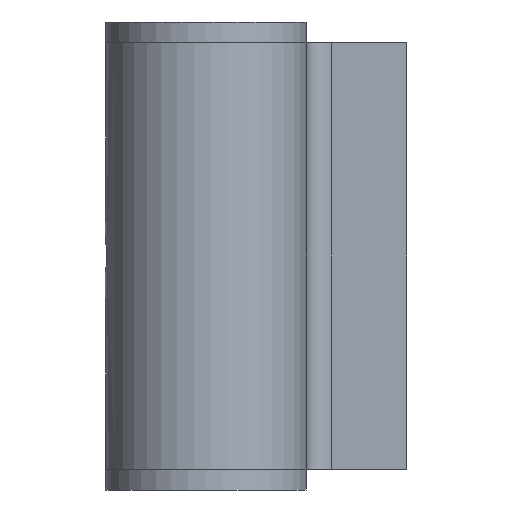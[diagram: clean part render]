
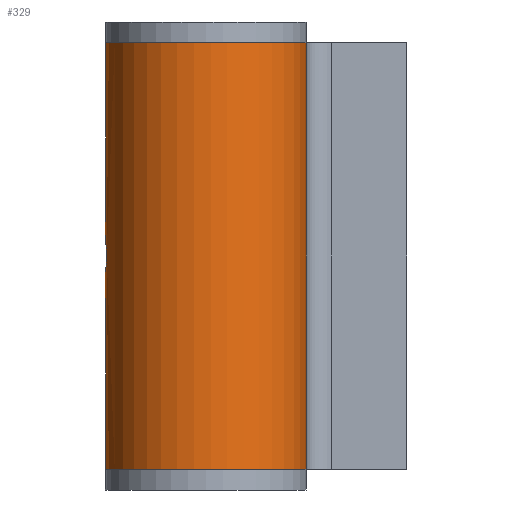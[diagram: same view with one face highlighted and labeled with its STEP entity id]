
A CAD part, left-side view. The second image highlights one B-rep face of the part: STEP entity #329.
In plain terms, the highlighted cylindrical face has radius 8 mm (diameter 16 mm), a partial arc.
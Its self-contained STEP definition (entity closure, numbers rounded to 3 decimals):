
#20 = CARTESIAN_POINT ( 'NONE',  ( -0.163, 8., 1.25 ) ) ;
#24 = CARTESIAN_POINT ( 'NONE',  ( -0.768, 7.964, 1. ) ) ;
#42 = CARTESIAN_POINT ( 'NONE',  ( 0., 0., 17. ) ) ;
#55 = VERTEX_POINT ( 'NONE', #495 ) ;
#56 = CARTESIAN_POINT ( 'NONE',  ( 1.092, 7.925, 0.63 ) ) ;
#59 = EDGE_CURVE ( 'NONE', #666, #660, #224, .T. ) ;
#66 = CARTESIAN_POINT ( 'NONE',  ( 1.242, 7.903, 0.164 ) ) ;
#74 = DIRECTION ( 'NONE',  ( 1., 0., 0. ) ) ;
#76 = CYLINDRICAL_SURFACE ( 'NONE', #592, 8. ) ;
#77 = CARTESIAN_POINT ( 'NONE',  ( -0.328, 7.995, 1.217 ) ) ;
#101 = DIRECTION ( 'NONE',  ( 0., 0., 1. ) ) ;
#117 = CARTESIAN_POINT ( 'NONE',  ( 0.165, 8., -1.25 ) ) ;
#120 = LINE ( 'NONE', #259, #512 ) ;
#132 = CARTESIAN_POINT ( 'NONE',  ( 0., 0., 17. ) ) ;
#137 = FACE_OUTER_BOUND ( 'NONE', #217, .T. ) ;
#148 = CARTESIAN_POINT ( 'NONE',  ( -0.77, 7.964, -0.998 ) ) ;
#150 = CARTESIAN_POINT ( 'NONE',  ( -1.25, 7.902, -0.164 ) ) ;
#154 = DIRECTION ( 'NONE',  ( 0., 0., -1. ) ) ;
#186 = CARTESIAN_POINT ( 'NONE',  ( 0.63, 7.977, 1.092 ) ) ;
#202 = CARTESIAN_POINT ( 'NONE',  ( 0.325, 7.994, 1.21 ) ) ;
#204 = AXIS2_PLACEMENT_3D ( 'NONE', #42, #101, #611 ) ;
#205 = CARTESIAN_POINT ( 'NONE',  ( -0.994, 7.938, 0.763 ) ) ;
#217 = EDGE_LOOP ( 'NONE', ( #445, #355, #293, #692 ) ) ;
#224 = LINE ( 'NONE', #351, #810 ) ;
#225 = EDGE_LOOP ( 'NONE', ( #801 ) ) ;
#259 = CARTESIAN_POINT ( 'NONE',  ( 0., -8., 17. ) ) ;
#260 = CARTESIAN_POINT ( 'NONE',  ( 0.63, 7.977, -1.092 ) ) ;
#266 = CARTESIAN_POINT ( 'NONE',  ( -1.217, 7.907, 0.329 ) ) ;
#271 = CARTESIAN_POINT ( 'NONE',  ( 0.165, 7.999, 1.242 ) ) ;
#293 = ORIENTED_EDGE ( 'NONE', *, *, #470, .F. ) ;
#327 = CARTESIAN_POINT ( 'NONE',  ( -1.092, 7.925, -0.629 ) ) ;
#329 = ADVANCED_FACE ( 'NONE', ( #710, #137 ), #76, .T. ) ;
#332 = CIRCLE ( 'NONE', #793, 8. ) ;
#336 = CARTESIAN_POINT ( 'NONE',  ( 0., -8., 17. ) ) ;
#351 = CARTESIAN_POINT ( 'NONE',  ( 5.465, 5.842, 17. ) ) ;
#355 = ORIENTED_EDGE ( 'NONE', *, *, #803, .F. ) ;
#365 = CARTESIAN_POINT ( 'NONE',  ( 1.092, 7.925, -0.629 ) ) ;
#369 = CARTESIAN_POINT ( 'NONE',  ( 0.403, 7.99, 1.186 ) ) ;
#375 = CARTESIAN_POINT ( 'NONE',  ( 0.769, 7.964, -0.999 ) ) ;
#379 = DIRECTION ( 'NONE',  ( 0., 0., 1. ) ) ;
#380 = DIRECTION ( 'NONE',  ( -1., 0., 0. ) ) ;
#387 = CARTESIAN_POINT ( 'NONE',  ( 5.465, 5.842, -17. ) ) ;
#400 = VERTEX_POINT ( 'NONE', #336 ) ;
#442 = CARTESIAN_POINT ( 'NONE',  ( 0.328, 7.995, -1.217 ) ) ;
#445 = ORIENTED_EDGE ( 'NONE', *, *, #524, .T. ) ;
#455 = CARTESIAN_POINT ( 'NONE',  ( -0.941, 7.945, 0.827 ) ) ;
#458 = CARTESIAN_POINT ( 'NONE',  ( -1.123, 7.921, 0.556 ) ) ;
#470 = EDGE_CURVE ( 'NONE', #666, #400, #694, .T. ) ;
#485 = DIRECTION ( 'NONE',  ( 0., 0., -1. ) ) ;
#492 = CARTESIAN_POINT ( 'NONE',  ( 0.768, 7.964, 1. ) ) ;
#495 = CARTESIAN_POINT ( 'NONE',  ( 0., 8., -1.25 ) ) ;
#499 = CARTESIAN_POINT ( 'NONE',  ( 1.21, 7.908, 0.324 ) ) ;
#504 = CARTESIAN_POINT ( 'NONE',  ( 1.25, 7.902, -0.164 ) ) ;
#511 = CARTESIAN_POINT ( 'NONE',  ( -1.25, 7.902, 0.166 ) ) ;
#512 = VECTOR ( 'NONE', #485, 1000. ) ;
#517 = CARTESIAN_POINT ( 'NONE',  ( -1., 7.938, -0.768 ) ) ;
#519 = CARTESIAN_POINT ( 'NONE',  ( -1.084, 7.926, 0.627 ) ) ;
#524 = EDGE_CURVE ( 'NONE', #660, #547, #332, .T. ) ;
#547 = VERTEX_POINT ( 'NONE', #561 ) ;
#561 = CARTESIAN_POINT ( 'NONE',  ( 0., -8., -17. ) ) ;
#573 = CARTESIAN_POINT ( 'NONE',  ( 0., 0., -17. ) ) ;
#575 = CARTESIAN_POINT ( 'NONE',  ( 0.082, 8., 1.25 ) ) ;
#582 = CARTESIAN_POINT ( 'NONE',  ( 0., 8., -1.25 ) ) ;
#589 = CARTESIAN_POINT ( 'NONE',  ( 5.465, 5.842, 17. ) ) ;
#592 = AXIS2_PLACEMENT_3D ( 'NONE', #132, #775, #380 ) ;
#611 = DIRECTION ( 'NONE',  ( 1., 0., 0. ) ) ;
#615 = CARTESIAN_POINT ( 'NONE',  ( 1.186, 7.912, 0.402 ) ) ;
#622 = CARTESIAN_POINT ( 'NONE',  ( 0.999, 7.938, -0.769 ) ) ;
#628 = CARTESIAN_POINT ( 'NONE',  ( 1.25, 7.902, 0.081 ) ) ;
#632 = EDGE_CURVE ( 'NONE', #55, #55, #672, .T. ) ;
#658 = CARTESIAN_POINT ( 'NONE',  ( -0.33, 7.995, -1.217 ) ) ;
#660 = VERTEX_POINT ( 'NONE', #387 ) ;
#666 = VERTEX_POINT ( 'NONE', #589 ) ;
#672 = B_SPLINE_CURVE_WITH_KNOTS ( 'NONE', 3,
 ( #686, #117, #442, #260, #375, #622, #365, #749, #504, #628, #66, #499, #615, #56, #761, #492, #186, #369, #202, #271, #575, #20, #77, #708, #24, #455, #205, #519, #458, #266, #511, #150, #720, #327, #517, #148, #782, #658, #776, #582 ),
 .UNSPECIFIED., .T., .F.,
 ( 4, 2, 2, 2, 2, 2, 2, 2, 2, 2, 2, 2, 2, 2, 2, 2, 2, 2, 2, 4 ),
 ( 0., 0., 0.001, 0.001, 0.002, 0.002, 0.002, 0.003, 0.003, 0.004, 0.004, 0.004, 0.005, 0.005, 0.005, 0.006, 0.006, 0.007, 0.007, 0.008 ),
 .UNSPECIFIED. ) ;
#686 = CARTESIAN_POINT ( 'NONE',  ( 0., 8., -1.25 ) ) ;
#692 = ORIENTED_EDGE ( 'NONE', *, *, #59, .T. ) ;
#694 = CIRCLE ( 'NONE', #204, 8. ) ;
#708 = CARTESIAN_POINT ( 'NONE',  ( -0.628, 7.977, 1.093 ) ) ;
#710 = FACE_BOUND ( 'NONE', #225, .T. ) ;
#720 = CARTESIAN_POINT ( 'NONE',  ( -1.218, 7.907, -0.327 ) ) ;
#749 = CARTESIAN_POINT ( 'NONE',  ( 1.217, 7.907, -0.329 ) ) ;
#761 = CARTESIAN_POINT ( 'NONE',  ( 1.001, 7.938, 0.767 ) ) ;
#775 = DIRECTION ( 'NONE',  ( 0., 0., -1. ) ) ;
#776 = CARTESIAN_POINT ( 'NONE',  ( -0.165, 8., -1.25 ) ) ;
#782 = CARTESIAN_POINT ( 'NONE',  ( -0.63, 7.977, -1.092 ) ) ;
#793 = AXIS2_PLACEMENT_3D ( 'NONE', #573, #379, #74 ) ;
#801 = ORIENTED_EDGE ( 'NONE', *, *, #632, .T. ) ;
#803 = EDGE_CURVE ( 'NONE', #400, #547, #120, .T. ) ;
#810 = VECTOR ( 'NONE', #154, 1000. ) ;
